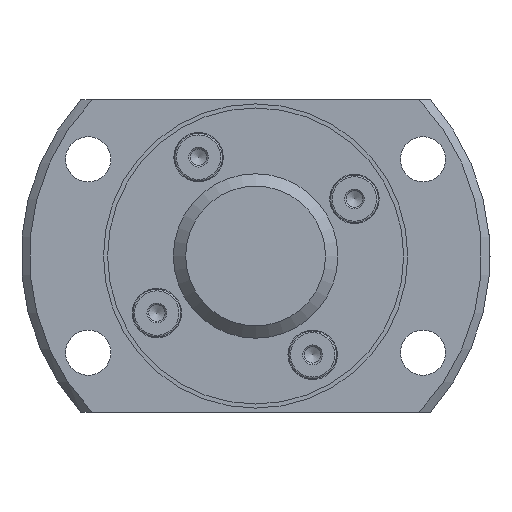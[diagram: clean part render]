
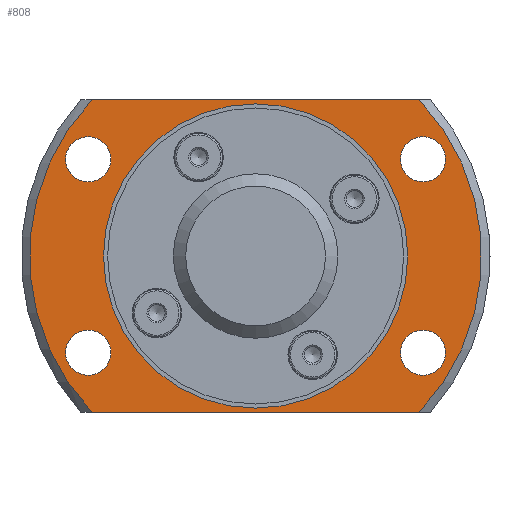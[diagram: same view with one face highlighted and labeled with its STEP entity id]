
A CAD part, left-side view. The second image highlights one B-rep face of the part: STEP entity #808.
In plain terms, the highlighted planar face has unit normal (-1, 0, 0).
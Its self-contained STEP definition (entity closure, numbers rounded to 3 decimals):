
#32=LINE('',#1445,#40);
#33=LINE('',#1446,#41);
#40=VECTOR('',#1127,1000.);
#41=VECTOR('',#1128,1000.);
#171=ORIENTED_EDGE('',*,*,#320,.T.);
#172=ORIENTED_EDGE('',*,*,#321,.F.);
#173=ORIENTED_EDGE('',*,*,#295,.F.);
#174=ORIENTED_EDGE('',*,*,#322,.F.);
#175=ORIENTED_EDGE('',*,*,#318,.F.);
#176=ORIENTED_EDGE('',*,*,#323,.T.);
#177=ORIENTED_EDGE('',*,*,#324,.T.);
#178=ORIENTED_EDGE('',*,*,#325,.T.);
#179=ORIENTED_EDGE('',*,*,#326,.T.);
#295=EDGE_CURVE('',#377,#376,#449,.T.);
#318=EDGE_CURVE('',#396,#397,#467,.T.);
#320=EDGE_CURVE('',#398,#398,#468,.T.);
#321=EDGE_CURVE('',#376,#396,#32,.T.);
#322=EDGE_CURVE('',#397,#377,#33,.T.);
#323=EDGE_CURVE('',#399,#399,#469,.T.);
#324=EDGE_CURVE('',#400,#400,#470,.T.);
#325=EDGE_CURVE('',#401,#401,#471,.T.);
#326=EDGE_CURVE('',#402,#402,#472,.T.);
#376=VERTEX_POINT('',#1368);
#377=VERTEX_POINT('',#1373);
#396=VERTEX_POINT('',#1435);
#397=VERTEX_POINT('',#1437);
#398=VERTEX_POINT('',#1444);
#399=VERTEX_POINT('',#1448);
#400=VERTEX_POINT('',#1450);
#401=VERTEX_POINT('',#1452);
#402=VERTEX_POINT('',#1454);
#449=CIRCLE('',#900,27.5);
#467=CIRCLE('',#929,27.5);
#468=CIRCLE('',#931,18.5);
#469=CIRCLE('',#932,2.75);
#470=CIRCLE('',#933,2.75);
#471=CIRCLE('',#934,2.75);
#472=CIRCLE('',#935,2.75);
#548=EDGE_LOOP('',(#171));
#549=EDGE_LOOP('',(#172,#173,#174,#175));
#550=EDGE_LOOP('',(#176));
#551=EDGE_LOOP('',(#177));
#552=EDGE_LOOP('',(#178));
#553=EDGE_LOOP('',(#179));
#678=FACE_BOUND('',#548,.T.);
#679=FACE_BOUND('',#549,.T.);
#680=FACE_BOUND('',#550,.T.);
#681=FACE_BOUND('',#551,.T.);
#682=FACE_BOUND('',#552,.T.);
#683=FACE_BOUND('',#553,.T.);
#775=PLANE('',#930);
#808=ADVANCED_FACE('',(#678,#679,#680,#681,#682,#683),#775,.T.);
#900=AXIS2_PLACEMENT_3D('',#1374,#1061,#1062);
#929=AXIS2_PLACEMENT_3D('',#1436,#1121,#1122);
#930=AXIS2_PLACEMENT_3D('',#1442,#1123,#1124);
#931=AXIS2_PLACEMENT_3D('',#1443,#1125,#1126);
#932=AXIS2_PLACEMENT_3D('',#1447,#1129,#1130);
#933=AXIS2_PLACEMENT_3D('',#1449,#1131,#1132);
#934=AXIS2_PLACEMENT_3D('',#1451,#1133,#1134);
#935=AXIS2_PLACEMENT_3D('',#1453,#1135,#1136);
#1061=DIRECTION('',(1.,0.,0.));
#1062=DIRECTION('',(0.,0.,-1.));
#1121=DIRECTION('',(1.,0.,0.));
#1122=DIRECTION('',(0.,0.,-1.));
#1123=DIRECTION('',(-1.,0.,0.));
#1124=DIRECTION('',(0.,0.,1.));
#1125=DIRECTION('',(1.,0.,0.));
#1126=DIRECTION('',(0.,0.,-1.));
#1127=DIRECTION('',(0.,1.,0.));
#1128=DIRECTION('',(0.,-1.,0.));
#1129=DIRECTION('',(1.,0.,0.));
#1130=DIRECTION('',(0.,0.,-1.));
#1131=DIRECTION('',(1.,0.,0.));
#1132=DIRECTION('',(0.,0.,-1.));
#1133=DIRECTION('',(1.,0.,0.));
#1134=DIRECTION('',(0.,0.,-1.));
#1135=DIRECTION('',(1.,0.,0.));
#1136=DIRECTION('',(0.,0.,-1.));
#1368=CARTESIAN_POINT('',(9.9,-19.881,-19.));
#1373=CARTESIAN_POINT('',(9.9,-19.881,19.));
#1374=CARTESIAN_POINT('',(9.9,0.,0.));
#1435=CARTESIAN_POINT('',(9.9,19.881,-19.));
#1436=CARTESIAN_POINT('',(9.9,0.,0.));
#1437=CARTESIAN_POINT('',(9.9,19.881,19.));
#1442=CARTESIAN_POINT('',(9.9,27.5,0.));
#1443=CARTESIAN_POINT('',(9.9,0.,0.));
#1444=CARTESIAN_POINT('',(9.9,0.,-18.5));
#1445=CARTESIAN_POINT('',(9.9,27.5,-19.));
#1446=CARTESIAN_POINT('',(9.9,27.5,19.));
#1447=CARTESIAN_POINT('',(9.9,-20.352,11.75));
#1448=CARTESIAN_POINT('',(9.9,-20.352,9.));
#1449=CARTESIAN_POINT('',(9.9,20.352,-11.75));
#1450=CARTESIAN_POINT('',(9.9,20.352,-14.5));
#1451=CARTESIAN_POINT('',(9.9,-20.352,-11.75));
#1452=CARTESIAN_POINT('',(9.9,-20.352,-14.5));
#1453=CARTESIAN_POINT('',(9.9,20.352,11.75));
#1454=CARTESIAN_POINT('',(9.9,20.352,9.));
